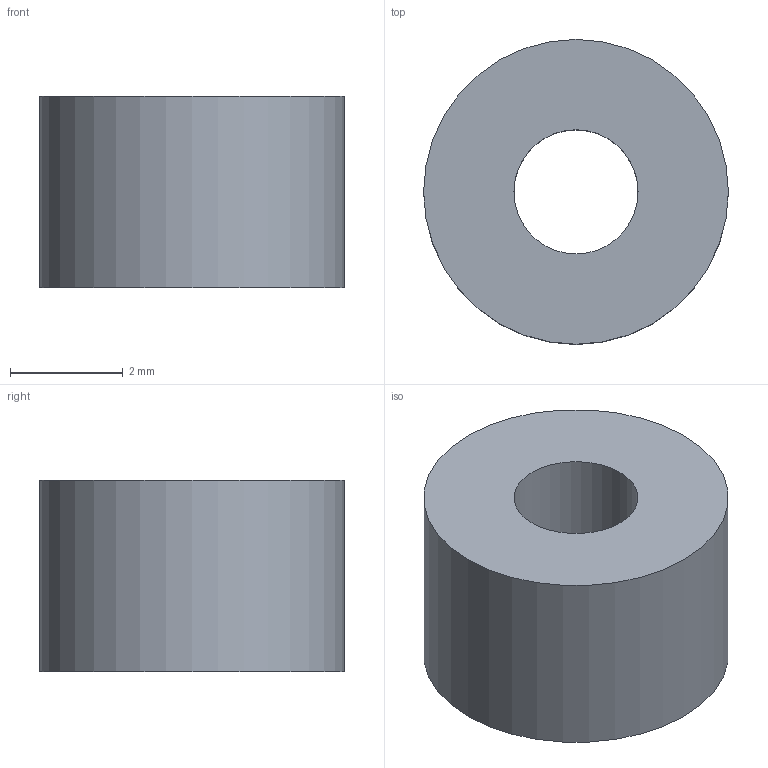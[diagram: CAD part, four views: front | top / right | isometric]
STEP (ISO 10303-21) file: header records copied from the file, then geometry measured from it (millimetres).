
FILE_DESCRIPTION(('Open CASCADE Model'),'2;1');
FILE_NAME('CH_post_1','2026-11-05T16:12:29',('Author'),('Open CASCADE'), 'Open CASCADE STEP processor 7.9','build123d','Unknown');
FILE_SCHEMA(('AUTOMOTIVE_DESIGN { 1 0 10303 214 1 1 1 1 }'));
Length unit declared in the file: millimetre
Products named in the file (2): CH_post_1
Assembly tree (1 placements, depth 2):
  CH_post_1
    CH_post_1
Bounding box: 5.4 x 5.4 x 3.4 mm (x, y, z)
Volume: 64.9 mm3; surface area: 119.4 mm2
Topology: 1 solids, 1 shells, 4 faces, 6 edges, 4 vertices
Faces by surface type: cylinder 2, plane 2
Full cylindrical faces by diameter (mm): 2.2 x1, 5.4 x1
Entity records: 228 total; most frequent: DIRECTION 34, CARTESIAN_POINT 28, ORIENTED_EDGE 12, PCURVE 12, DEFINITIONAL_REPRESENTATION 12, AXIS2_PLACEMENT_3D 10, LINE 10, VECTOR 10
